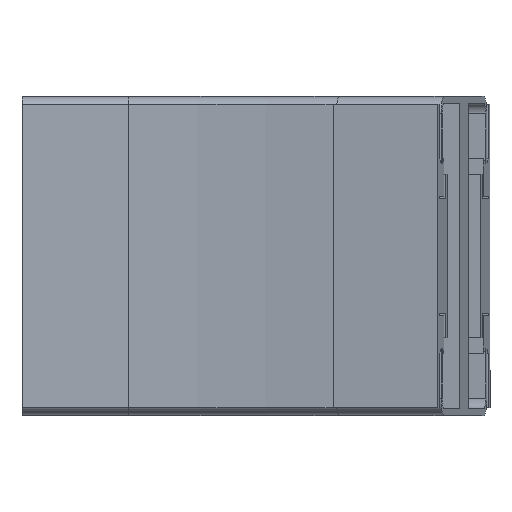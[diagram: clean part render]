
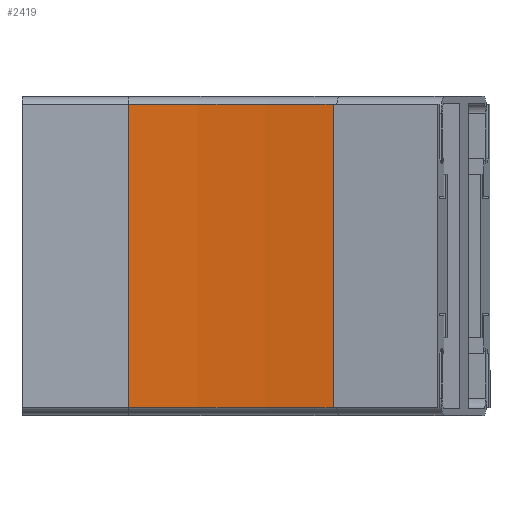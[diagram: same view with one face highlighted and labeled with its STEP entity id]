
A CAD part, front view. The second image highlights one B-rep face of the part: STEP entity #2419.
In plain terms, the highlighted cylindrical face has radius 443.5 mm (diameter 887 mm), a partial arc.
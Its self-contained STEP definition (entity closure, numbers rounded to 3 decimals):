
#98 = ORIENTED_EDGE ( 'NONE', *, *, #2803, .T. ) ;
#131 = CYLINDRICAL_SURFACE ( 'NONE', #3773, 443.5 ) ;
#489 = AXIS2_PLACEMENT_3D ( 'NONE', #3880, #2038, #2119 ) ;
#515 = DIRECTION ( 'NONE',  ( 0., 0., -1. ) ) ;
#576 = CARTESIAN_POINT ( 'NONE',  ( 40., -56.5, -57.15 ) ) ;
#628 = DIRECTION ( 'NONE',  ( 0., 0., 1. ) ) ;
#736 = ORIENTED_EDGE ( 'NONE', *, *, #5390, .T. ) ;
#879 = CARTESIAN_POINT ( 'NONE',  ( 117.013, -63.238, -57.15 ) ) ;
#907 = CARTESIAN_POINT ( 'NONE',  ( 40., -56.5, 0. ) ) ;
#1117 = DIRECTION ( 'NONE',  ( 1., 0., 0. ) ) ;
#1137 = AXIS2_PLACEMENT_3D ( 'NONE', #3736, #3808, #1117 ) ;
#1300 = FACE_OUTER_BOUND ( 'NONE', #3321, .T. ) ;
#1456 = EDGE_CURVE ( 'NONE', #4933, #5187, #1777, .T. ) ;
#1466 = CARTESIAN_POINT ( 'NONE',  ( 40., -500., 0. ) ) ;
#1695 = LINE ( 'NONE', #907, #5274 ) ;
#1777 = CIRCLE ( 'NONE', #489, 443.5 ) ;
#2038 = DIRECTION ( 'NONE',  ( 0., 0., 1. ) ) ;
#2119 = DIRECTION ( 'NONE',  ( 1., 0., 0. ) ) ;
#2235 = ORIENTED_EDGE ( 'NONE', *, *, #1456, .F. ) ;
#2351 = CARTESIAN_POINT ( 'NONE',  ( 117.013, -63.238, -57.15 ) ) ;
#2419 = ADVANCED_FACE ( 'NONE', ( #1300 ), #131, .F. ) ;
#2508 = VERTEX_POINT ( 'NONE', #4635 ) ;
#2510 = VECTOR ( 'NONE', #4645, 1000. ) ;
#2803 = EDGE_CURVE ( 'NONE', #3300, #5187, #1695, .T. ) ;
#3035 = EDGE_CURVE ( 'NONE', #4933, #2508, #4242, .T. ) ;
#3267 = CIRCLE ( 'NONE', #1137, 443.5 ) ;
#3300 = VERTEX_POINT ( 'NONE', #4104 ) ;
#3321 = EDGE_LOOP ( 'NONE', ( #98, #2235, #3793, #736 ) ) ;
#3736 = CARTESIAN_POINT ( 'NONE',  ( 40., -500., 57.15 ) ) ;
#3773 = AXIS2_PLACEMENT_3D ( 'NONE', #1466, #628, #4546 ) ;
#3793 = ORIENTED_EDGE ( 'NONE', *, *, #3035, .T. ) ;
#3808 = DIRECTION ( 'NONE',  ( 0., 0., 1. ) ) ;
#3880 = CARTESIAN_POINT ( 'NONE',  ( 40., -500., -57.15 ) ) ;
#4104 = CARTESIAN_POINT ( 'NONE',  ( 40., -56.5, 57.15 ) ) ;
#4242 = LINE ( 'NONE', #2351, #2510 ) ;
#4546 = DIRECTION ( 'NONE',  ( 1., 0., 0. ) ) ;
#4635 = CARTESIAN_POINT ( 'NONE',  ( 117.013, -63.238, 57.15 ) ) ;
#4645 = DIRECTION ( 'NONE',  ( 0., 0., 1. ) ) ;
#4933 = VERTEX_POINT ( 'NONE', #879 ) ;
#5187 = VERTEX_POINT ( 'NONE', #576 ) ;
#5274 = VECTOR ( 'NONE', #515, 1000. ) ;
#5390 = EDGE_CURVE ( 'NONE', #2508, #3300, #3267, .T. ) ;
